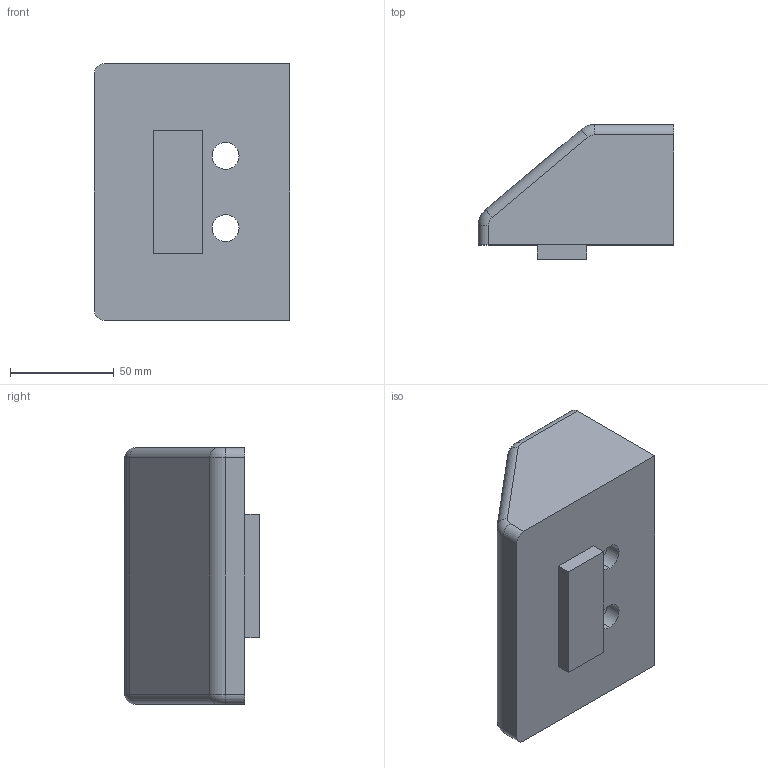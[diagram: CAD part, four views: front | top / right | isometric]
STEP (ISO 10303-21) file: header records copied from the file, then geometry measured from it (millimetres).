
FILE_DESCRIPTION (( 'STEP AP203' ), '1' );
FILE_NAME ('6921484087000.STEP', '2008-08-07T11:24:45', ( 'Markus Römer' ), ( '' ), 'SwSTEP 2.0', 'SolidWorks 2007', '' );
FILE_SCHEMA (( 'CONFIG_CONTROL_DESIGN' ));
Length unit declared in the file: millimetre
Products named in the file (1): 6921484087000
Bounding box: 94.5 x 65 x 124 mm (x, y, z)
Volume: 513909.9 mm3; surface area: 49574.4 mm2
Topology: 1 solids, 1 shells, 34 faces, 85 edges, 54 vertices
Faces by surface type: cylinder 16, plane 14, torus 4
Entity records: 1142 total; most frequent: CARTESIAN_POINT 212, DIRECTION 191, ORIENTED_EDGE 170, EDGE_CURVE 85, AXIS2_PLACEMENT_3D 73, VERTEX_POINT 54, VECTOR 45, LINE 45
